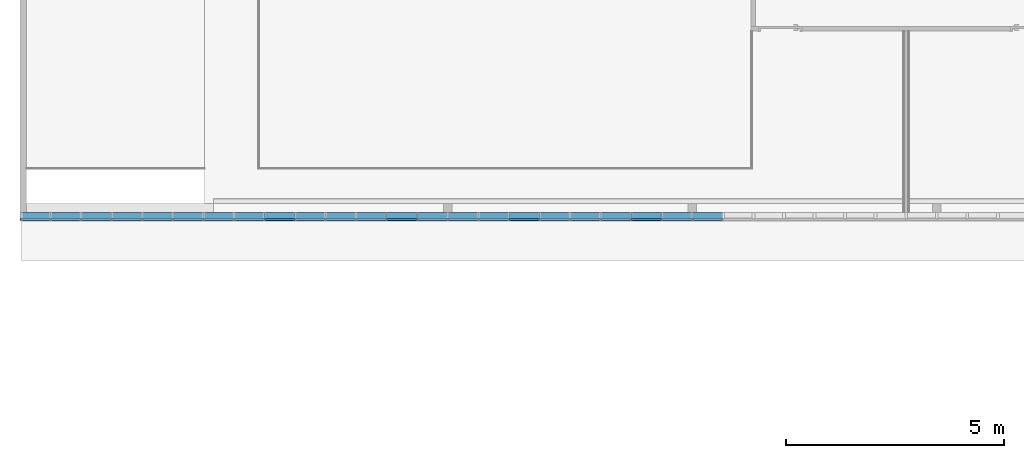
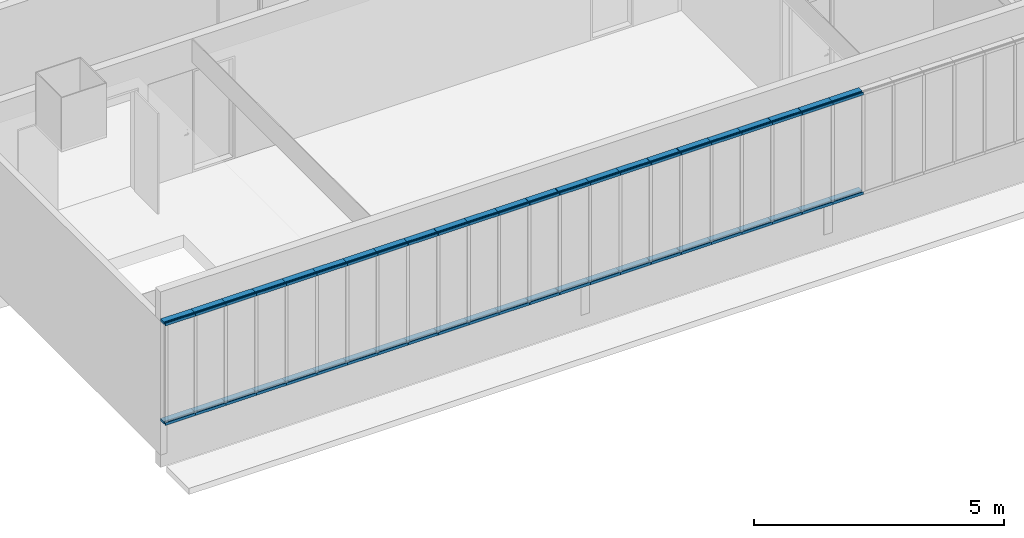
# One storey, part 8 of 87: 54 members, 1 element without a shape of its own.
"""IFC2X3 building model written with IfcOpenShell, lengths in centimetres."""

import ifcopenshell
import ifcopenshell.guid

model = None  # the IFC model being written
_history = None  # IfcOwnerHistory: only IFC2X3 demands one
_inside = {}  # id of a spatial element -> (the spatial element, [elements in it])
_under = {}  # id of a project, library or spatial element -> (it, [spatial elements below it])
_declared = {}  # id of a project -> (the project, [libraries it declares])
_typed = {}  # id of a type object -> (the type object, [elements of that type])
_made_of = {}  # id of a material, layer set ... -> (it, [elements and type objects made of it])


def new_model(schema):
    """Start an empty IFC model of exactly this schema.

    Asked for "IFC4X3", IfcOpenShell would pick the latest addendum, in which some entities
    have other attributes; the version numbers below select the first issue.
    IFC2X3 requires an IfcOwnerHistory on every rooted entity: one is made here for all.
    """
    global model, _history
    if schema == "IFC4X3":
        model = ifcopenshell.file(schema_version=(4, 3, 0, 0))
    else:
        model = ifcopenshell.file(schema=schema)
    _inside.clear()
    _under.clear()
    _declared.clear()
    _typed.clear()
    _made_of.clear()
    _history = None
    if model.schema == "IFC2X3":
        org = make("IfcOrganization", Name="unknown")
        user = make(
            "IfcPersonAndOrganization",
            ThePerson=make("IfcPerson", FamilyName="unknown"),
            TheOrganization=org,
        )
        app = make(
            "IfcApplication",
            ApplicationDeveloper=org,
            Version="unknown",
            ApplicationFullName="unknown",
            ApplicationIdentifier="unknown",
        )
        _history = make(
            "IfcOwnerHistory",
            OwningUser=user,
            OwningApplication=app,
            ChangeAction="ADDED",
            CreationDate=0,
        )
    return model


def make(cls, **values):
    """One entity of the class cls with the attributes given. An attribute that is None is left unset."""
    return model.create_entity(
        cls, **{name: value for name, value in values.items() if value is not None}
    )


def entity(cls, *values):
    """Any entity or typed value of the class cls, its attributes in the order of the schema. None: left unset."""
    e = model.create_entity(cls)
    for i, value in enumerate(values):
        if value is not None:
            e[i] = value
    return e


def rooted(cls, **values):
    """An entity with a GlobalId (a new one), such as an element, a storey or a relation."""
    return make(cls, GlobalId=ifcopenshell.guid.new(), OwnerHistory=_history, **values)


def si_unit(unit_type, name, prefix=None):
    """IfcSIUnit, for example si_unit("LENGTHUNIT", "METRE", prefix="MILLI")."""
    return make("IfcSIUnit", UnitType=unit_type, Prefix=prefix, Name=name)


def converted_unit(unit_type, name, factor, base, dimensions=None, offset=None):
    """IfcConversionBasedUnit, such as the inch: factor (a typed value) times the base unit."""
    return make(
        "IfcConversionBasedUnit"
        if offset is None
        else "IfcConversionBasedUnitWithOffset",
        ConversionOffset=offset,
        Dimensions=None
        if dimensions is None
        else entity("IfcDimensionalExponents", *dimensions),
        UnitType=unit_type,
        Name=name,
        ConversionFactor=make(
            "IfcMeasureWithUnit", ValueComponent=factor, UnitComponent=base
        ),
    )


def derived_unit(unit_type, elements):
    """IfcDerivedUnit: a product of units, each with its exponent."""
    return make(
        "IfcDerivedUnit",
        Elements=[
            make("IfcDerivedUnitElement", Unit=unit, Exponent=power)
            for unit, power in elements
        ],
        UnitType=unit_type,
    )


def assignment(units):
    """IfcUnitAssignment: the units of a project."""
    return None if units is None else make("IfcUnitAssignment", Units=units)


def point(xyz):
    """IfcCartesianPoint."""
    return None if xyz is None else make("IfcCartesianPoint", Coordinates=xyz)


def direction(xyz):
    """IfcDirection."""
    return None if xyz is None else make("IfcDirection", DirectionRatios=xyz)


def frame(location, z_axis=None, x_axis=None):
    """IfcAxis2Placement3D, a coordinate frame: its origin and axes. An axis left out is left unset."""
    return make(
        "IfcAxis2Placement3D",
        Location=point(location),
        Axis=direction(z_axis),
        RefDirection=direction(x_axis),
    )


def origin():
    """The frame at (0, 0, 0) with its axes left unset."""
    return frame((0.0, 0.0, 0.0))


def place(relative_to, where):
    """IfcLocalPlacement: puts the frame where relative to a parent placement (None: the world)."""
    return make(
        "IfcLocalPlacement", PlacementRelTo=relative_to, RelativePlacement=where
    )


def context(
    kind, dimensions, precision=None, world=None, true_north=None, identifier=None
):
    """IfcGeometricRepresentationContext, for example the 3D "Model" context."""
    return make(
        "IfcGeometricRepresentationContext",
        ContextIdentifier=identifier,
        ContextType=kind,
        CoordinateSpaceDimension=dimensions,
        Precision=precision,
        WorldCoordinateSystem=world,
        TrueNorth=true_north,
    )


def subcontext(parent, identifier, kind, view, scale=None):
    """IfcGeometricRepresentationSubContext, for example "Body" below "Model"."""
    return make(
        "IfcGeometricRepresentationSubContext",
        ContextIdentifier=identifier,
        ContextType=kind,
        ParentContext=parent,
        TargetScale=scale,
        TargetView=view,
    )


def project(units=None, contexts=None):
    """IfcProject with its units and contexts."""
    return rooted(
        "IfcProject",
        Name="project",
        RepresentationContexts=contexts,
        UnitsInContext=assignment(units),
    )


def spatial(cls, under=None, at=None, **own):
    """A site, building, storey or space (cls), placed at a placement, below another one or the project."""
    s = rooted(cls, ObjectPlacement=at, **own)
    if under is not None:
        _under.setdefault(under.id(), (under, []))[1].append(s)
    return s


def polyline(points):
    """IfcPolyline through the points."""
    return make("IfcPolyline", Points=[point(p) for p in points])


def outline(outer, holes=None, kind="AREA"):
    """IfcArbitraryClosedProfileDef: a profile drawn as a closed curve; with holes, ...WithVoids."""
    if holes is None:
        return make("IfcArbitraryClosedProfileDef", ProfileType=kind, OuterCurve=outer)
    return make(
        "IfcArbitraryProfileDefWithVoids",
        ProfileType=kind,
        OuterCurve=outer,
        InnerCurves=holes,
    )


def extrude(swept, where, along, depth):
    """IfcExtrudedAreaSolid: the profile swept, set in the frame where, extruded along a direction by depth."""
    return make(
        "IfcExtrudedAreaSolid",
        SweptArea=swept,
        Position=where,
        ExtrudedDirection=direction(along),
        Depth=depth,
    )


def shape(context_of_items, identifier, shape_type, items):
    """IfcShapeRepresentation: the items that make up one representation, for example the "Body"."""
    return make(
        "IfcShapeRepresentation",
        ContextOfItems=context_of_items,
        RepresentationIdentifier=identifier,
        RepresentationType=shape_type,
        Items=items,
    )


def source(mapping_origin, context_of_items, identifier, shape_type, items):
    """IfcRepresentationMap: a shape defined once, which mapped items show again and again."""
    return make(
        "IfcRepresentationMap",
        MappingOrigin=mapping_origin,
        MappedRepresentation=shape(context_of_items, identifier, shape_type, items),
    )


def transform(
    local_origin,
    x_axis=None,
    y_axis=None,
    z_axis=None,
    scale=None,
    scale2=None,
    scale3=None,
    uniform=True,
):
    """IfcCartesianTransformationOperator3D, or its non-uniform kind. x_axis, y_axis, z_axis: its Axis1, 2, 3."""
    if uniform:
        return make(
            "IfcCartesianTransformationOperator3D",
            Axis1=direction(x_axis),
            Axis2=direction(y_axis),
            LocalOrigin=point(local_origin),
            Scale=scale,
            Axis3=direction(z_axis),
        )
    return make(
        "IfcCartesianTransformationOperator3DnonUniform",
        Axis1=direction(x_axis),
        Axis2=direction(y_axis),
        LocalOrigin=point(local_origin),
        Scale=scale,
        Axis3=direction(z_axis),
        Scale2=scale2,
        Scale3=scale3,
    )


def mapped(mapping_source, mapping_target):
    """IfcMappedItem: shows the shape of a source again, moved by a transform."""
    return make(
        "IfcMappedItem", MappingSource=mapping_source, MappingTarget=mapping_target
    )


def material(Name=None, Category=None):
    """IfcMaterial."""
    return make("IfcMaterial", Name=Name, Category=Category)


def made_of(thing, what):
    """Note that an element or type object is made of a material, layer set ...; save() writes the relation."""
    if what is not None:
        _made_of.setdefault(what.id(), (what, []))[1].append(thing)
    return thing


def type_object(cls, material=None, **own):
    """A type object (cls), such as IfcWallType, which elements share."""
    return made_of(rooted(cls, **own), material)


def type_shapes(of_type, sources):
    """Give a type object the sources (RepresentationMaps) that its elements show as mapped items."""
    of_type.RepresentationMaps = sources


def element(
    cls,
    number,
    at=None,
    inside=None,
    cuts=None,
    type_object=None,
    material=None,
    context=None,
    identifier="Body",
    shape_type=None,
    held_by="IfcProductDefinitionShape",
    body=None,
    shapes=None,
    **own,
):
    """One element of the class cls, such as IfcWall. Its Tag is "e" and its number.

    at: its placement. inside: the storey or other place that contains it. cuts: it is an
    opening in that element (IfcRelVoidsElement). A single representation is given by context,
    identifier, shape_type and body (its items); several are given by shapes. held_by: the class
    of the entity that holds the representations. save() writes the other relations.
    """
    e = rooted(cls, Tag="e%d" % number, ObjectPlacement=at, **own)
    if body is not None:
        shapes = [shape(context, identifier, shape_type, body)]
    if shapes is not None:
        e.Representation = make(held_by, Representations=shapes)
    if inside is not None:
        _inside.setdefault(inside.id(), (inside, []))[1].append(e)
    if cuts is not None:
        rooted(
            "IfcRelVoidsElement", RelatingBuildingElement=cuts, RelatedOpeningElement=e
        )
    if type_object is not None:
        _typed.setdefault(type_object.id(), (type_object, []))[1].append(e)
    return made_of(e, material)


def aggregate(whole, parts):
    """IfcRelAggregates: a whole, such as a stair, and the parts it consists of."""
    return rooted("IfcRelAggregates", RelatingObject=whole, RelatedObjects=parts)


def save(model, path):
    """Write the relations noted so far, then the file.

    IfcRelAggregates (storeys below a building ...), IfcRelContainedInSpatialStructure (elements
    in a storey), IfcRelDefinesByType, IfcRelAssociatesMaterial and IfcRelDeclares: one each for
    every whole, place, type object, material and project.
    """
    for whole, parts in _under.values():
        aggregate(whole, parts)
    for where, things in _inside.values():
        rooted(
            "IfcRelContainedInSpatialStructure",
            RelatedElements=things,
            RelatingStructure=where,
        )
    for kind, things in _typed.values():
        rooted("IfcRelDefinesByType", RelatedObjects=things, RelatingType=kind)
    for what, things in _made_of.values():
        rooted("IfcRelAssociatesMaterial", RelatedObjects=things, RelatingMaterial=what)
    for by, libraries in _declared.values():
        rooted("IfcRelDeclares", RelatingContext=by, RelatedDefinitions=libraries)
    model.write(path)


model = new_model("IFC2X3")

# Units and contexts
model_context = context("Model", 3, precision=0.001, world=origin(), true_north=direction((6.12303176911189e-17, 1.0)))
body_context = subcontext(model_context, "Body", "Model", "MODEL_VIEW")
ifc_project = project(units=[si_unit("LENGTHUNIT", "METRE", prefix="CENTI"), si_unit("AREAUNIT", "SQUARE_METRE"), si_unit("VOLUMEUNIT", "CUBIC_METRE"), converted_unit("PLANEANGLEUNIT", "DEGREE", entity("IfcRatioMeasure", 0.0174532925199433), si_unit("PLANEANGLEUNIT", "RADIAN"), dimensions=[0, 0, 0, 0, 0, 0, 0]), si_unit("MASSUNIT", "GRAM", prefix="KILO"), derived_unit("MASSDENSITYUNIT", [(si_unit("MASSUNIT", "GRAM", prefix="KILO"), 1), (si_unit("LENGTHUNIT", "METRE"), -3)]), si_unit("TIMEUNIT", "SECOND"), si_unit("FREQUENCYUNIT", "HERTZ"), si_unit("THERMODYNAMICTEMPERATUREUNIT", "DEGREE_CELSIUS"), derived_unit("THERMALTRANSMITTANCEUNIT", [(si_unit("MASSUNIT", "GRAM", prefix="KILO"), 1), (si_unit("THERMODYNAMICTEMPERATUREUNIT", "KELVIN"), -1), (si_unit("TIMEUNIT", "SECOND"), -3)]), derived_unit("VOLUMETRICFLOWRATEUNIT", [(si_unit("LENGTHUNIT", "METRE"), 3), (si_unit("TIMEUNIT", "SECOND"), -1)]), si_unit("ELECTRICCURRENTUNIT", "AMPERE"), si_unit("ELECTRICVOLTAGEUNIT", "VOLT"), si_unit("POWERUNIT", "WATT"), si_unit("FORCEUNIT", "NEWTON", prefix="KILO"), si_unit("ILLUMINANCEUNIT", "LUX"), si_unit("LUMINOUSFLUXUNIT", "LUMEN"), si_unit("LUMINOUSINTENSITYUNIT", "CANDELA"), derived_unit("USERDEFINED", [(si_unit("MASSUNIT", "GRAM", prefix="KILO"), -1), (si_unit("LENGTHUNIT", "METRE"), -2), (si_unit("TIMEUNIT", "SECOND"), 3), (si_unit("LUMINOUSFLUXUNIT", "LUMEN"), 1)]), derived_unit("LINEARVELOCITYUNIT", [(si_unit("LENGTHUNIT", "METRE"), 1), (si_unit("TIMEUNIT", "SECOND"), -1)]), si_unit("PRESSUREUNIT", "PASCAL"), derived_unit("USERDEFINED", [(si_unit("LENGTHUNIT", "METRE"), -2), (si_unit("MASSUNIT", "GRAM", prefix="KILO"), 1), (si_unit("TIMEUNIT", "SECOND"), -2)])], contexts=[model_context])

# Site, building, storey
site_placement = place(None, frame((-2781.94577612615, 7442.24238424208, 0.0)))
site = spatial("IfcSite", under=ifc_project, at=site_placement, Name="Default", CompositionType="ELEMENT")
building_placement = place(site_placement, origin())
building = spatial("IfcBuilding", under=site, at=building_placement, CompositionType="ELEMENT")
storey_placement = place(building_placement, frame((0.0, 0.0, 774.0)))
storey = spatial("IfcBuildingStorey", under=building, at=storey_placement, Name="TR - N02 - ARCH", CompositionType="ELEMENT", Elevation=774.0)

# Curtain wall, members
curtain_wall_type = type_object("IfcCurtainWallType", Name="Mur-rideau:07 - mur rideau trame 70cm", PredefinedType="NOTDEFINED")
curtain_wall_placement = place(storey_placement, frame((0.0, 0.0, -774.0)))
curtain_wall = element("IfcCurtainWall", 1, at=curtain_wall_placement, inside=storey, type_object=curtain_wall_type, Name="Mur-rideau:07 - mur rideau trame 70cm", ObjectType="Mur-rideau:07 - mur rideau trame 70cm")
ifc_material = material(Name="Aluminium")
member_type_1 = type_object("IfcMemberType", Name="150 x 25mm Détails", PredefinedType="MEMBER")
shared_shape_1 = source(origin(), body_context, "Body", "SweptSolid", [
    extrude(outline(polyline([(-5.6666666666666, -3.24999999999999), (-3.66666666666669, -3.24999999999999), (-3.66666666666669, -0.868749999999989), (-0.166666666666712, -0.868749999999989), (-0.166666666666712, -3.25000000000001), (13.3333333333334, -3.25000000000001), (13.3333333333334, 3.24999999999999), (-0.16666666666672, 3.24999999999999), (-0.16666666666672, 0.868749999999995), (-3.66666666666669, 0.868749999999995), (-3.66666666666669, 3.25), (-5.6666666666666, 3.25), (-5.6666666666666, -3.24999999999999)])), frame((-3.24999999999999, -1.96666666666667, -70.0), z_axis=(0.0, 0.0, 1.0), x_axis=(0.0, -1.0, 0.0)), (0.0, 0.0, 1.0), 70.0000000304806),
])
type_shapes(member_type_1, [shared_shape_1])
member_1_placement = place(storey_placement, frame((-8339.49987763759, -1946.27903364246, 332.5), z_axis=(1.0, 0.0, 0.0), x_axis=(0.0, 0.0, 1.0)))
member_1 = element("IfcMember", 2, at=member_1_placement, type_object=member_type_1, material=ifc_material, Name="Meneau rectangulaire:150 x 25mm Détails", ObjectType="Meneau rectangulaire:150 x 25mm Détails", context=body_context, shape_type="MappedRepresentation", body=[
    mapped(shared_shape_1, transform((0.0, 0.0, 0.0), scale=1.0)),
])
member_type_2 = type_object("IfcMemberType", Name="150 x 25mm Détails", PredefinedType="MEMBER")
shared_shape_2 = source(origin(), body_context, "Body", "SweptSolid", [
    extrude(outline(polyline([(-5.6666666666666, -3.24999999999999), (-3.66666666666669, -3.24999999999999), (-3.66666666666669, -0.868749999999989), (-0.166666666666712, -0.868749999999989), (-0.166666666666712, -3.25000000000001), (13.3333333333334, -3.25000000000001), (13.3333333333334, 3.24999999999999), (-0.16666666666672, 3.24999999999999), (-0.16666666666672, 0.868749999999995), (-3.66666666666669, 0.868749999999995), (-3.66666666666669, 3.25), (-5.6666666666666, 3.25), (-5.6666666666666, -3.24999999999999)])), frame((-3.24999999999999, -1.96666666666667, -70.0), z_axis=(0.0, 0.0, 1.0), x_axis=(0.0, -1.0, 0.0)), (0.0, 0.0, 1.0), 69.9999999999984),
])
type_shapes(member_type_2, [shared_shape_2])
member_2_placement = place(storey_placement, frame((-8269.49987763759, -1946.27903364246, 332.5), z_axis=(1.0, 0.0, 0.0), x_axis=(0.0, 0.0, 1.0)))
member_2 = element("IfcMember", 3, at=member_2_placement, type_object=member_type_2, material=ifc_material, Name="Meneau rectangulaire:150 x 25mm Détails", ObjectType="Meneau rectangulaire:150 x 25mm Détails", context=body_context, shape_type="MappedRepresentation", body=[
    mapped(shared_shape_2, transform((0.0, 0.0, 0.0), scale=1.0)),
])
member_3_placement = place(storey_placement, frame((-8199.49987763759, -1946.27903364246, 332.5), z_axis=(1.0, 0.0, 0.0), x_axis=(0.0, 0.0, 1.0)))
member_3 = element("IfcMember", 4, at=member_3_placement, type_object=member_type_2, material=ifc_material, Name="Meneau rectangulaire:150 x 25mm Détails", ObjectType="Meneau rectangulaire:150 x 25mm Détails", context=body_context, shape_type="MappedRepresentation", body=[
    mapped(shared_shape_2, transform((0.0, 0.0, 0.0), scale=1.0)),
])
member_4_placement = place(storey_placement, frame((-8129.49987763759, -1946.27903364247, 332.5), z_axis=(1.0, 0.0, 0.0), x_axis=(0.0, 0.0, 1.0)))
member_4 = element("IfcMember", 5, at=member_4_placement, type_object=member_type_2, material=ifc_material, Name="Meneau rectangulaire:150 x 25mm Détails", ObjectType="Meneau rectangulaire:150 x 25mm Détails", context=body_context, shape_type="MappedRepresentation", body=[
    mapped(shared_shape_2, transform((0.0, 0.0, 0.0), scale=1.0)),
])
member_5_placement = place(storey_placement, frame((-8059.49987763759, -1946.27903364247, 332.5), z_axis=(1.0, 0.0, 0.0), x_axis=(0.0, 0.0, 1.0)))
member_5 = element("IfcMember", 6, at=member_5_placement, type_object=member_type_2, material=ifc_material, Name="Meneau rectangulaire:150 x 25mm Détails", ObjectType="Meneau rectangulaire:150 x 25mm Détails", context=body_context, shape_type="MappedRepresentation", body=[
    mapped(shared_shape_2, transform((0.0, 0.0, 0.0), scale=1.0)),
])
member_6_placement = place(storey_placement, frame((-7989.49987763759, -1946.27903364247, 332.5), z_axis=(1.0, 0.0, 0.0), x_axis=(0.0, 0.0, 1.0)))
member_6 = element("IfcMember", 7, at=member_6_placement, type_object=member_type_2, material=ifc_material, Name="Meneau rectangulaire:150 x 25mm Détails", ObjectType="Meneau rectangulaire:150 x 25mm Détails", context=body_context, shape_type="MappedRepresentation", body=[
    mapped(shared_shape_2, transform((0.0, 0.0, 0.0), scale=1.0)),
])
member_7_placement = place(storey_placement, frame((-7919.49987763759, -1946.27903364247, 332.5), z_axis=(1.0, 0.0, 0.0), x_axis=(0.0, 0.0, 1.0)))
member_7 = element("IfcMember", 8, at=member_7_placement, type_object=member_type_2, material=ifc_material, Name="Meneau rectangulaire:150 x 25mm Détails", ObjectType="Meneau rectangulaire:150 x 25mm Détails", context=body_context, shape_type="MappedRepresentation", body=[
    mapped(shared_shape_2, transform((0.0, 0.0, 0.0), scale=1.0)),
])
member_8_placement = place(storey_placement, frame((-7849.49987763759, -1946.27903364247, 332.5), z_axis=(1.0, 0.0, 0.0), x_axis=(0.0, 0.0, 1.0)))
member_8 = element("IfcMember", 9, at=member_8_placement, type_object=member_type_2, material=ifc_material, Name="Meneau rectangulaire:150 x 25mm Détails", ObjectType="Meneau rectangulaire:150 x 25mm Détails", context=body_context, shape_type="MappedRepresentation", body=[
    mapped(shared_shape_2, transform((0.0, 0.0, 0.0), scale=1.0)),
])
member_9_placement = place(storey_placement, frame((-7779.49987763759, -1946.27903364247, 332.5), z_axis=(1.0, 0.0, 0.0), x_axis=(0.0, 0.0, 1.0)))
member_9 = element("IfcMember", 10, at=member_9_placement, type_object=member_type_2, material=ifc_material, Name="Meneau rectangulaire:150 x 25mm Détails", ObjectType="Meneau rectangulaire:150 x 25mm Détails", context=body_context, shape_type="MappedRepresentation", body=[
    mapped(shared_shape_2, transform((0.0, 0.0, 0.0), scale=1.0)),
])
member_10_placement = place(storey_placement, frame((-7709.49987763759, -1946.27903364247, 332.5), z_axis=(1.0, 0.0, 0.0), x_axis=(0.0, 0.0, 1.0)))
member_10 = element("IfcMember", 11, at=member_10_placement, type_object=member_type_2, material=ifc_material, Name="Meneau rectangulaire:150 x 25mm Détails", ObjectType="Meneau rectangulaire:150 x 25mm Détails", context=body_context, shape_type="MappedRepresentation", body=[
    mapped(shared_shape_2, transform((0.0, 0.0, 0.0), scale=1.0)),
])
member_11_placement = place(storey_placement, frame((-7639.49987763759, -1946.27903364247, 332.5), z_axis=(1.0, 0.0, 0.0), x_axis=(0.0, 0.0, 1.0)))
member_11 = element("IfcMember", 12, at=member_11_placement, type_object=member_type_2, material=ifc_material, Name="Meneau rectangulaire:150 x 25mm Détails", ObjectType="Meneau rectangulaire:150 x 25mm Détails", context=body_context, shape_type="MappedRepresentation", body=[
    mapped(shared_shape_2, transform((0.0, 0.0, 0.0), scale=1.0)),
])
member_12_placement = place(storey_placement, frame((-7569.49987763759, -1946.27903364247, 332.5), z_axis=(1.0, 0.0, 0.0), x_axis=(0.0, 0.0, 1.0)))
member_12 = element("IfcMember", 13, at=member_12_placement, type_object=member_type_2, material=ifc_material, Name="Meneau rectangulaire:150 x 25mm Détails", ObjectType="Meneau rectangulaire:150 x 25mm Détails", context=body_context, shape_type="MappedRepresentation", body=[
    mapped(shared_shape_2, transform((0.0, 0.0, 0.0), scale=1.0)),
])
member_13_placement = place(storey_placement, frame((-7499.49987763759, -1946.27903364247, 332.5), z_axis=(1.0, 0.0, 0.0), x_axis=(0.0, 0.0, 1.0)))
member_13 = element("IfcMember", 14, at=member_13_placement, type_object=member_type_2, material=ifc_material, Name="Meneau rectangulaire:150 x 25mm Détails", ObjectType="Meneau rectangulaire:150 x 25mm Détails", context=body_context, shape_type="MappedRepresentation", body=[
    mapped(shared_shape_2, transform((0.0, 0.0, 0.0), scale=1.0)),
])
member_14_placement = place(storey_placement, frame((-7429.49987763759, -1946.27903364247, 332.5), z_axis=(1.0, 0.0, 0.0), x_axis=(0.0, 0.0, 1.0)))
member_14 = element("IfcMember", 15, at=member_14_placement, type_object=member_type_2, material=ifc_material, Name="Meneau rectangulaire:150 x 25mm Détails", ObjectType="Meneau rectangulaire:150 x 25mm Détails", context=body_context, shape_type="MappedRepresentation", body=[
    mapped(shared_shape_2, transform((0.0, 0.0, 0.0), scale=1.0)),
])
member_15_placement = place(storey_placement, frame((-7359.49987763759, -1946.27903364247, 332.5), z_axis=(1.0, 0.0, 0.0), x_axis=(0.0, 0.0, 1.0)))
member_15 = element("IfcMember", 16, at=member_15_placement, type_object=member_type_2, material=ifc_material, Name="Meneau rectangulaire:150 x 25mm Détails", ObjectType="Meneau rectangulaire:150 x 25mm Détails", context=body_context, shape_type="MappedRepresentation", body=[
    mapped(shared_shape_2, transform((0.0, 0.0, 0.0), scale=1.0)),
])
member_16_placement = place(storey_placement, frame((-7289.49987763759, -1946.27903364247, 332.5), z_axis=(1.0, 0.0, 0.0), x_axis=(0.0, 0.0, 1.0)))
member_16 = element("IfcMember", 17, at=member_16_placement, type_object=member_type_2, material=ifc_material, Name="Meneau rectangulaire:150 x 25mm Détails", ObjectType="Meneau rectangulaire:150 x 25mm Détails", context=body_context, shape_type="MappedRepresentation", body=[
    mapped(shared_shape_2, transform((0.0, 0.0, 0.0), scale=1.0)),
])
member_17_placement = place(storey_placement, frame((-7219.49987763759, -1946.27903364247, 332.5), z_axis=(1.0, 0.0, 0.0), x_axis=(0.0, 0.0, 1.0)))
member_17 = element("IfcMember", 18, at=member_17_placement, type_object=member_type_2, material=ifc_material, Name="Meneau rectangulaire:150 x 25mm Détails", ObjectType="Meneau rectangulaire:150 x 25mm Détails", context=body_context, shape_type="MappedRepresentation", body=[
    mapped(shared_shape_2, transform((0.0, 0.0, 0.0), scale=1.0)),
])
member_18_placement = place(storey_placement, frame((-7149.49987763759, -1946.27903364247, 332.5), z_axis=(1.0, 0.0, 0.0), x_axis=(0.0, 0.0, 1.0)))
member_18 = element("IfcMember", 19, at=member_18_placement, type_object=member_type_2, material=ifc_material, Name="Meneau rectangulaire:150 x 25mm Détails", ObjectType="Meneau rectangulaire:150 x 25mm Détails", context=body_context, shape_type="MappedRepresentation", body=[
    mapped(shared_shape_2, transform((0.0, 0.0, 0.0), scale=1.0)),
])
member_19_placement = place(storey_placement, frame((-7079.49987763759, -1946.27903364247, 332.5), z_axis=(1.0, 0.0, 0.0), x_axis=(0.0, 0.0, 1.0)))
member_19 = element("IfcMember", 20, at=member_19_placement, type_object=member_type_2, material=ifc_material, Name="Meneau rectangulaire:150 x 25mm Détails", ObjectType="Meneau rectangulaire:150 x 25mm Détails", context=body_context, shape_type="MappedRepresentation", body=[
    mapped(shared_shape_2, transform((0.0, 0.0, 0.0), scale=1.0)),
])
member_20_placement = place(storey_placement, frame((-7009.49987763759, -1946.27903364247, 332.5), z_axis=(1.0, 0.0, 0.0), x_axis=(0.0, 0.0, 1.0)))
member_20 = element("IfcMember", 21, at=member_20_placement, type_object=member_type_2, material=ifc_material, Name="Meneau rectangulaire:150 x 25mm Détails", ObjectType="Meneau rectangulaire:150 x 25mm Détails", context=body_context, shape_type="MappedRepresentation", body=[
    mapped(shared_shape_2, transform((0.0, 0.0, 0.0), scale=1.0)),
])
member_21_placement = place(storey_placement, frame((-6939.49987763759, -1946.27903364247, 332.5), z_axis=(1.0, 0.0, 0.0), x_axis=(0.0, 0.0, 1.0)))
member_21 = element("IfcMember", 22, at=member_21_placement, type_object=member_type_2, material=ifc_material, Name="Meneau rectangulaire:150 x 25mm Détails", ObjectType="Meneau rectangulaire:150 x 25mm Détails", context=body_context, shape_type="MappedRepresentation", body=[
    mapped(shared_shape_2, transform((0.0, 0.0, 0.0), scale=1.0)),
])
member_22_placement = place(storey_placement, frame((-6869.49987763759, -1946.27903364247, 332.5), z_axis=(1.0, 0.0, 0.0), x_axis=(0.0, 0.0, 1.0)))
member_22 = element("IfcMember", 23, at=member_22_placement, type_object=member_type_2, material=ifc_material, Name="Meneau rectangulaire:150 x 25mm Détails", ObjectType="Meneau rectangulaire:150 x 25mm Détails", context=body_context, shape_type="MappedRepresentation", body=[
    mapped(shared_shape_2, transform((0.0, 0.0, 0.0), scale=1.0)),
])
member_23_placement = place(storey_placement, frame((-6799.49987763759, -1946.27903364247, 332.5), z_axis=(1.0, 0.0, 0.0), x_axis=(0.0, 0.0, 1.0)))
member_23 = element("IfcMember", 24, at=member_23_placement, type_object=member_type_2, material=ifc_material, Name="Meneau rectangulaire:150 x 25mm Détails", ObjectType="Meneau rectangulaire:150 x 25mm Détails", context=body_context, shape_type="MappedRepresentation", body=[
    mapped(shared_shape_2, transform((0.0, 0.0, 0.0), scale=1.0)),
])
member_type_3 = type_object("IfcMemberType", Name="150 x 25mm Détails", PredefinedType="MEMBER")
shared_shape_3 = source(origin(), body_context, "Body", "SweptSolid", [
    extrude(outline(polyline([(-5.66666666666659, -3.25), (-3.66666666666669, -3.25), (-3.66666666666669, -0.868749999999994), (-0.166666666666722, -0.868749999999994), (-0.166666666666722, -3.25000000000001), (13.3333333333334, -3.24999999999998), (13.3333333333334, 3.25000000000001), (-0.166666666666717, 3.25000000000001), (-0.166666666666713, 0.868749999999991), (-3.66666666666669, 0.868749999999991), (-3.66666666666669, 3.24999999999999), (-5.66666666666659, 3.24999999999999), (-5.66666666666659, -3.25)])), frame((-3.24999999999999, -1.96666666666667, -70.0), z_axis=(0.0, 0.0, 1.0), x_axis=(0.0, -1.0, 0.0)), (0.0, 0.0, 1.0), 70.0000000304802),
])
type_shapes(member_type_3, [shared_shape_3])
member_24_placement = place(storey_placement, frame((-8409.49987766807, -1946.27903364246, 83.5), z_axis=(-1.0, 0.0, 0.0), x_axis=(0.0, 0.0, -1.0)))
member_24 = element("IfcMember", 25, at=member_24_placement, type_object=member_type_3, material=ifc_material, Name="Meneau rectangulaire:150 x 25mm Détails", ObjectType="Meneau rectangulaire:150 x 25mm Détails", context=body_context, shape_type="MappedRepresentation", body=[
    mapped(shared_shape_3, transform((0.0, 0.0, 0.0), scale=1.0)),
])
member_type_4 = type_object("IfcMemberType", Name="150 x 25mm Détails", PredefinedType="MEMBER")
shared_shape_4 = source(origin(), body_context, "Body", "SweptSolid", [
    extrude(outline(polyline([(-5.66666666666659, -3.25), (-3.66666666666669, -3.25), (-3.66666666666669, -0.868749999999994), (-0.166666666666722, -0.868749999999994), (-0.166666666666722, -3.25000000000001), (13.3333333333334, -3.24999999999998), (13.3333333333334, 3.25000000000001), (-0.166666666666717, 3.25000000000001), (-0.166666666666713, 0.868749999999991), (-3.66666666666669, 0.868749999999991), (-3.66666666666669, 3.24999999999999), (-5.66666666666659, 3.24999999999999), (-5.66666666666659, -3.25)])), frame((-3.24999999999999, -1.96666666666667, -70.0), z_axis=(0.0, 0.0, 1.0), x_axis=(0.0, -1.0, 0.0)), (0.0, 0.0, 1.0), 69.9999999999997),
])
type_shapes(member_type_4, [shared_shape_4])
member_25_placement = place(storey_placement, frame((-8339.49987763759, -1946.27903364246, 83.5), z_axis=(-1.0, 0.0, 0.0), x_axis=(0.0, 0.0, -1.0)))
member_25 = element("IfcMember", 26, at=member_25_placement, type_object=member_type_4, material=ifc_material, Name="Meneau rectangulaire:150 x 25mm Détails", ObjectType="Meneau rectangulaire:150 x 25mm Détails", context=body_context, shape_type="MappedRepresentation", body=[
    mapped(shared_shape_4, transform((0.0, 0.0, 0.0), scale=1.0)),
])
member_26_placement = place(storey_placement, frame((-8269.49987763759, -1946.27903364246, 83.5), z_axis=(-1.0, 0.0, 0.0), x_axis=(0.0, 0.0, -1.0)))
member_26 = element("IfcMember", 27, at=member_26_placement, type_object=member_type_4, material=ifc_material, Name="Meneau rectangulaire:150 x 25mm Détails", ObjectType="Meneau rectangulaire:150 x 25mm Détails", context=body_context, shape_type="MappedRepresentation", body=[
    mapped(shared_shape_4, transform((0.0, 0.0, 0.0), scale=1.0)),
])
member_27_placement = place(storey_placement, frame((-8199.49987763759, -1946.27903364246, 83.5), z_axis=(-1.0, 0.0, 0.0), x_axis=(0.0, 0.0, -1.0)))
member_27 = element("IfcMember", 28, at=member_27_placement, type_object=member_type_4, material=ifc_material, Name="Meneau rectangulaire:150 x 25mm Détails", ObjectType="Meneau rectangulaire:150 x 25mm Détails", context=body_context, shape_type="MappedRepresentation", body=[
    mapped(shared_shape_4, transform((0.0, 0.0, 0.0), scale=1.0)),
])
member_28_placement = place(storey_placement, frame((-8129.49987763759, -1946.27903364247, 83.5), z_axis=(-1.0, 0.0, 0.0), x_axis=(0.0, 0.0, -1.0)))
member_28 = element("IfcMember", 29, at=member_28_placement, type_object=member_type_4, material=ifc_material, Name="Meneau rectangulaire:150 x 25mm Détails", ObjectType="Meneau rectangulaire:150 x 25mm Détails", context=body_context, shape_type="MappedRepresentation", body=[
    mapped(shared_shape_4, transform((0.0, 0.0, 0.0), scale=1.0)),
])
member_29_placement = place(storey_placement, frame((-8059.49987763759, -1946.27903364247, 83.5), z_axis=(-1.0, 0.0, 0.0), x_axis=(0.0, 0.0, -1.0)))
member_29 = element("IfcMember", 30, at=member_29_placement, type_object=member_type_4, material=ifc_material, Name="Meneau rectangulaire:150 x 25mm Détails", ObjectType="Meneau rectangulaire:150 x 25mm Détails", context=body_context, shape_type="MappedRepresentation", body=[
    mapped(shared_shape_4, transform((0.0, 0.0, 0.0), scale=1.0)),
])
member_30_placement = place(storey_placement, frame((-7989.49987763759, -1946.27903364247, 83.5), z_axis=(-1.0, 0.0, 0.0), x_axis=(0.0, 0.0, -1.0)))
member_30 = element("IfcMember", 31, at=member_30_placement, type_object=member_type_4, material=ifc_material, Name="Meneau rectangulaire:150 x 25mm Détails", ObjectType="Meneau rectangulaire:150 x 25mm Détails", context=body_context, shape_type="MappedRepresentation", body=[
    mapped(shared_shape_4, transform((0.0, 0.0, 0.0), scale=1.0)),
])
member_31_placement = place(storey_placement, frame((-7919.49987763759, -1946.27903364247, 83.5), z_axis=(-1.0, 0.0, 0.0), x_axis=(0.0, 0.0, -1.0)))
member_31 = element("IfcMember", 32, at=member_31_placement, type_object=member_type_4, material=ifc_material, Name="Meneau rectangulaire:150 x 25mm Détails", ObjectType="Meneau rectangulaire:150 x 25mm Détails", context=body_context, shape_type="MappedRepresentation", body=[
    mapped(shared_shape_4, transform((0.0, 0.0, 0.0), scale=1.0)),
])
member_32_placement = place(storey_placement, frame((-7849.49987763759, -1946.27903364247, 83.5), z_axis=(-1.0, 0.0, 0.0), x_axis=(0.0, 0.0, -1.0)))
member_32 = element("IfcMember", 33, at=member_32_placement, type_object=member_type_4, material=ifc_material, Name="Meneau rectangulaire:150 x 25mm Détails", ObjectType="Meneau rectangulaire:150 x 25mm Détails", context=body_context, shape_type="MappedRepresentation", body=[
    mapped(shared_shape_4, transform((0.0, 0.0, 0.0), scale=1.0)),
])
member_33_placement = place(storey_placement, frame((-7779.49987763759, -1946.27903364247, 83.5), z_axis=(-1.0, 0.0, 0.0), x_axis=(0.0, 0.0, -1.0)))
member_33 = element("IfcMember", 34, at=member_33_placement, type_object=member_type_4, material=ifc_material, Name="Meneau rectangulaire:150 x 25mm Détails", ObjectType="Meneau rectangulaire:150 x 25mm Détails", context=body_context, shape_type="MappedRepresentation", body=[
    mapped(shared_shape_4, transform((0.0, 0.0, 0.0), scale=1.0)),
])
member_34_placement = place(storey_placement, frame((-7709.49987763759, -1946.27903364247, 83.5), z_axis=(-1.0, 0.0, 0.0), x_axis=(0.0, 0.0, -1.0)))
member_34 = element("IfcMember", 35, at=member_34_placement, type_object=member_type_4, material=ifc_material, Name="Meneau rectangulaire:150 x 25mm Détails", ObjectType="Meneau rectangulaire:150 x 25mm Détails", context=body_context, shape_type="MappedRepresentation", body=[
    mapped(shared_shape_4, transform((0.0, 0.0, 0.0), scale=1.0)),
])
member_35_placement = place(storey_placement, frame((-7639.49987763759, -1946.27903364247, 83.5), z_axis=(-1.0, 0.0, 0.0), x_axis=(0.0, 0.0, -1.0)))
member_35 = element("IfcMember", 36, at=member_35_placement, type_object=member_type_4, material=ifc_material, Name="Meneau rectangulaire:150 x 25mm Détails", ObjectType="Meneau rectangulaire:150 x 25mm Détails", context=body_context, shape_type="MappedRepresentation", body=[
    mapped(shared_shape_4, transform((0.0, 0.0, 0.0), scale=1.0)),
])
member_36_placement = place(storey_placement, frame((-7569.49987763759, -1946.27903364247, 83.5), z_axis=(-1.0, 0.0, 0.0), x_axis=(0.0, 0.0, -1.0)))
member_36 = element("IfcMember", 37, at=member_36_placement, type_object=member_type_4, material=ifc_material, Name="Meneau rectangulaire:150 x 25mm Détails", ObjectType="Meneau rectangulaire:150 x 25mm Détails", context=body_context, shape_type="MappedRepresentation", body=[
    mapped(shared_shape_4, transform((0.0, 0.0, 0.0), scale=1.0)),
])
member_37_placement = place(storey_placement, frame((-7499.49987763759, -1946.27903364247, 83.5), z_axis=(-1.0, 0.0, 0.0), x_axis=(0.0, 0.0, -1.0)))
member_37 = element("IfcMember", 38, at=member_37_placement, type_object=member_type_4, material=ifc_material, Name="Meneau rectangulaire:150 x 25mm Détails", ObjectType="Meneau rectangulaire:150 x 25mm Détails", context=body_context, shape_type="MappedRepresentation", body=[
    mapped(shared_shape_4, transform((0.0, 0.0, 0.0), scale=1.0)),
])
member_38_placement = place(storey_placement, frame((-7429.49987763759, -1946.27903364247, 83.5), z_axis=(-1.0, 0.0, 0.0), x_axis=(0.0, 0.0, -1.0)))
member_38 = element("IfcMember", 39, at=member_38_placement, type_object=member_type_4, material=ifc_material, Name="Meneau rectangulaire:150 x 25mm Détails", ObjectType="Meneau rectangulaire:150 x 25mm Détails", context=body_context, shape_type="MappedRepresentation", body=[
    mapped(shared_shape_4, transform((0.0, 0.0, 0.0), scale=1.0)),
])
member_39_placement = place(storey_placement, frame((-7359.49987763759, -1946.27903364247, 83.5), z_axis=(-1.0, 0.0, 0.0), x_axis=(0.0, 0.0, -1.0)))
member_39 = element("IfcMember", 40, at=member_39_placement, type_object=member_type_4, material=ifc_material, Name="Meneau rectangulaire:150 x 25mm Détails", ObjectType="Meneau rectangulaire:150 x 25mm Détails", context=body_context, shape_type="MappedRepresentation", body=[
    mapped(shared_shape_4, transform((0.0, 0.0, 0.0), scale=1.0)),
])
member_40_placement = place(storey_placement, frame((-7289.49987763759, -1946.27903364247, 83.5), z_axis=(-1.0, 0.0, 0.0), x_axis=(0.0, 0.0, -1.0)))
member_40 = element("IfcMember", 41, at=member_40_placement, type_object=member_type_4, material=ifc_material, Name="Meneau rectangulaire:150 x 25mm Détails", ObjectType="Meneau rectangulaire:150 x 25mm Détails", context=body_context, shape_type="MappedRepresentation", body=[
    mapped(shared_shape_4, transform((0.0, 0.0, 0.0), scale=1.0)),
])
member_41_placement = place(storey_placement, frame((-7219.49987763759, -1946.27903364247, 83.5), z_axis=(-1.0, 0.0, 0.0), x_axis=(0.0, 0.0, -1.0)))
member_41 = element("IfcMember", 42, at=member_41_placement, type_object=member_type_4, material=ifc_material, Name="Meneau rectangulaire:150 x 25mm Détails", ObjectType="Meneau rectangulaire:150 x 25mm Détails", context=body_context, shape_type="MappedRepresentation", body=[
    mapped(shared_shape_4, transform((0.0, 0.0, 0.0), scale=1.0)),
])
member_42_placement = place(storey_placement, frame((-7149.49987763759, -1946.27903364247, 83.5), z_axis=(-1.0, 0.0, 0.0), x_axis=(0.0, 0.0, -1.0)))
member_42 = element("IfcMember", 43, at=member_42_placement, type_object=member_type_4, material=ifc_material, Name="Meneau rectangulaire:150 x 25mm Détails", ObjectType="Meneau rectangulaire:150 x 25mm Détails", context=body_context, shape_type="MappedRepresentation", body=[
    mapped(shared_shape_4, transform((0.0, 0.0, 0.0), scale=1.0)),
])
member_43_placement = place(storey_placement, frame((-7079.49987763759, -1946.27903364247, 83.5), z_axis=(-1.0, 0.0, 0.0), x_axis=(0.0, 0.0, -1.0)))
member_43 = element("IfcMember", 44, at=member_43_placement, type_object=member_type_4, material=ifc_material, Name="Meneau rectangulaire:150 x 25mm Détails", ObjectType="Meneau rectangulaire:150 x 25mm Détails", context=body_context, shape_type="MappedRepresentation", body=[
    mapped(shared_shape_4, transform((0.0, 0.0, 0.0), scale=1.0)),
])
member_44_placement = place(storey_placement, frame((-7009.49987763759, -1946.27903364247, 83.5), z_axis=(-1.0, 0.0, 0.0), x_axis=(0.0, 0.0, -1.0)))
member_44 = element("IfcMember", 45, at=member_44_placement, type_object=member_type_4, material=ifc_material, Name="Meneau rectangulaire:150 x 25mm Détails", ObjectType="Meneau rectangulaire:150 x 25mm Détails", context=body_context, shape_type="MappedRepresentation", body=[
    mapped(shared_shape_4, transform((0.0, 0.0, 0.0), scale=1.0)),
])
member_45_placement = place(storey_placement, frame((-6939.49987763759, -1946.27903364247, 83.5), z_axis=(-1.0, 0.0, 0.0), x_axis=(0.0, 0.0, -1.0)))
member_45 = element("IfcMember", 46, at=member_45_placement, type_object=member_type_4, material=ifc_material, Name="Meneau rectangulaire:150 x 25mm Détails", ObjectType="Meneau rectangulaire:150 x 25mm Détails", context=body_context, shape_type="MappedRepresentation", body=[
    mapped(shared_shape_4, transform((0.0, 0.0, 0.0), scale=1.0)),
])
member_46_placement = place(storey_placement, frame((-6869.49987763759, -1946.27903364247, 83.5), z_axis=(-1.0, 0.0, 0.0), x_axis=(0.0, 0.0, -1.0)))
member_46 = element("IfcMember", 47, at=member_46_placement, type_object=member_type_4, material=ifc_material, Name="Meneau rectangulaire:150 x 25mm Détails", ObjectType="Meneau rectangulaire:150 x 25mm Détails", context=body_context, shape_type="MappedRepresentation", body=[
    mapped(shared_shape_4, transform((0.0, 0.0, 0.0), scale=1.0)),
])
member_type_5 = type_object("IfcMemberType", Name="150 x 25mm Détails", PredefinedType="MEMBER")
shared_shape_5 = source(origin(), body_context, "Body", "SweptSolid", [
    extrude(outline(polyline([(-5.66666666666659, -3.25), (-3.66666666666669, -3.25), (-3.66666666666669, -0.868749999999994), (-0.166666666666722, -0.868749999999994), (-0.166666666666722, -3.25000000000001), (13.3333333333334, -3.24999999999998), (13.3333333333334, 3.25000000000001), (-0.166666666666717, 3.25000000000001), (-0.166666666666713, 0.868749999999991), (-3.66666666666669, 0.868749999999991), (-3.66666666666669, 3.24999999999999), (-5.66666666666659, 3.24999999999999), (-5.66666666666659, -3.25)])), frame((-3.24999999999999, -1.96666666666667, -68.0), z_axis=(0.0, 0.0, 1.0), x_axis=(0.0, -1.0, 0.0)), (0.0, 0.0, 1.0), 68.0000000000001),
])
type_shapes(member_type_5, [shared_shape_5])
member_47_placement = place(storey_placement, frame((-7848.74987242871, -1946.27903364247, 326.0), z_axis=(-1.0, 0.0, 0.0), x_axis=(0.0, 0.0, -1.0)))
member_47 = element("IfcMember", 48, at=member_47_placement, type_object=member_type_5, material=ifc_material, Name="Meneau rectangulaire:150 x 25mm Détails", ObjectType="Meneau rectangulaire:150 x 25mm Détails", context=body_context, shape_type="MappedRepresentation", body=[
    mapped(shared_shape_5, transform((0.0, 0.0, 0.0), scale=1.0)),
])
member_48_placement = place(storey_placement, frame((-7008.74987242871, -1946.27903364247, 326.0), z_axis=(-1.0, 0.0, 0.0), x_axis=(0.0, 0.0, -1.0)))
member_48 = element("IfcMember", 49, at=member_48_placement, type_object=member_type_5, material=ifc_material, Name="Meneau rectangulaire:150 x 25mm Détails", ObjectType="Meneau rectangulaire:150 x 25mm Détails", context=body_context, shape_type="MappedRepresentation", body=[
    mapped(shared_shape_5, transform((0.0, 0.0, 0.0), scale=1.0)),
])
member_49_placement = place(storey_placement, frame((-7288.74987242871, -1946.27903364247, 326.0), z_axis=(-1.0, 0.0, 0.0), x_axis=(0.0, 0.0, -1.0)))
member_49 = element("IfcMember", 50, at=member_49_placement, type_object=member_type_5, material=ifc_material, Name="Meneau rectangulaire:150 x 25mm Détails", ObjectType="Meneau rectangulaire:150 x 25mm Détails", context=body_context, shape_type="MappedRepresentation", body=[
    mapped(shared_shape_5, transform((0.0, 0.0, 0.0), scale=1.0)),
])
member_50_placement = place(storey_placement, frame((-7568.74987242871, -1946.27903364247, 326.0), z_axis=(-1.0, 0.0, 0.0), x_axis=(0.0, 0.0, -1.0)))
member_50 = element("IfcMember", 51, at=member_50_placement, type_object=member_type_5, material=ifc_material, Name="Meneau rectangulaire:150 x 25mm Détails", ObjectType="Meneau rectangulaire:150 x 25mm Détails", context=body_context, shape_type="MappedRepresentation", body=[
    mapped(shared_shape_5, transform((0.0, 0.0, 0.0), scale=1.0)),
])
member_type_6 = type_object("IfcMemberType", Name="150 x 25mm Détails", PredefinedType="MEMBER")
shared_shape_6 = source(origin(), body_context, "Body", "SweptSolid", [
    extrude(outline(polyline([(-5.6666666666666, -3.24999999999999), (-3.66666666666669, -3.24999999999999), (-3.66666666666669, -0.868749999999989), (-0.166666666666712, -0.868749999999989), (-0.166666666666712, -3.25000000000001), (13.3333333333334, -3.25000000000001), (13.3333333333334, 3.24999999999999), (-0.16666666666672, 3.24999999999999), (-0.16666666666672, 0.868749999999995), (-3.66666666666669, 0.868749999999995), (-3.66666666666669, 3.25), (-5.6666666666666, 3.25), (-5.6666666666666, -3.24999999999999)])), frame((-3.24999999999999, -1.96666666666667, -68.0), z_axis=(0.0, 0.0, 1.0), x_axis=(0.0, -1.0, 0.0)), (0.0, 0.0, 1.0), 68.0000000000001),
])
type_shapes(member_type_6, [shared_shape_6])
member_51_placement = place(storey_placement, frame((-7780.74987242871, -1946.27903364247, 90.0), z_axis=(1.0, 0.0, 0.0), x_axis=(0.0, 0.0, 1.0)))
member_51 = element("IfcMember", 52, at=member_51_placement, type_object=member_type_6, material=ifc_material, Name="Meneau rectangulaire:150 x 25mm Détails", ObjectType="Meneau rectangulaire:150 x 25mm Détails", context=body_context, shape_type="MappedRepresentation", body=[
    mapped(shared_shape_6, transform((0.0, 0.0, 0.0), scale=1.0)),
])
member_52_placement = place(storey_placement, frame((-6940.74987242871, -1946.27903364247, 90.0), z_axis=(1.0, 0.0, 0.0), x_axis=(0.0, 0.0, 1.0)))
member_52 = element("IfcMember", 53, at=member_52_placement, type_object=member_type_6, material=ifc_material, Name="Meneau rectangulaire:150 x 25mm Détails", ObjectType="Meneau rectangulaire:150 x 25mm Détails", context=body_context, shape_type="MappedRepresentation", body=[
    mapped(shared_shape_6, transform((0.0, 0.0, 0.0), scale=1.0)),
])
member_53_placement = place(storey_placement, frame((-7220.74987242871, -1946.27903364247, 90.0), z_axis=(1.0, 0.0, 0.0), x_axis=(0.0, 0.0, 1.0)))
member_53 = element("IfcMember", 54, at=member_53_placement, type_object=member_type_6, material=ifc_material, Name="Meneau rectangulaire:150 x 25mm Détails", ObjectType="Meneau rectangulaire:150 x 25mm Détails", context=body_context, shape_type="MappedRepresentation", body=[
    mapped(shared_shape_6, transform((0.0, 0.0, 0.0), scale=1.0)),
])
member_54_placement = place(storey_placement, frame((-7500.74987242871, -1946.27903364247, 90.0), z_axis=(1.0, 0.0, 0.0), x_axis=(0.0, 0.0, 1.0)))
member_54 = element("IfcMember", 55, at=member_54_placement, type_object=member_type_6, material=ifc_material, Name="Meneau rectangulaire:150 x 25mm Détails", ObjectType="Meneau rectangulaire:150 x 25mm Détails", context=body_context, shape_type="MappedRepresentation", body=[
    mapped(shared_shape_6, transform((0.0, 0.0, 0.0), scale=1.0)),
])
aggregate(curtain_wall, [member_1, member_2, member_3, member_4, member_5, member_6, member_7, member_8, member_9, member_10, member_11, member_12, member_13, member_14, member_15, member_16, member_17, member_18, member_19, member_20, member_21, member_22, member_23, member_24, member_25, member_26, member_27, member_28, member_29, member_30, member_31, member_32, member_33, member_34, member_35, member_36, member_37, member_38, member_39, member_40, member_41, member_42, member_43, member_44, member_45, member_46, member_47, member_48, member_49, member_50, member_51, member_52, member_53, member_54])

save(model, "model.ifc")
